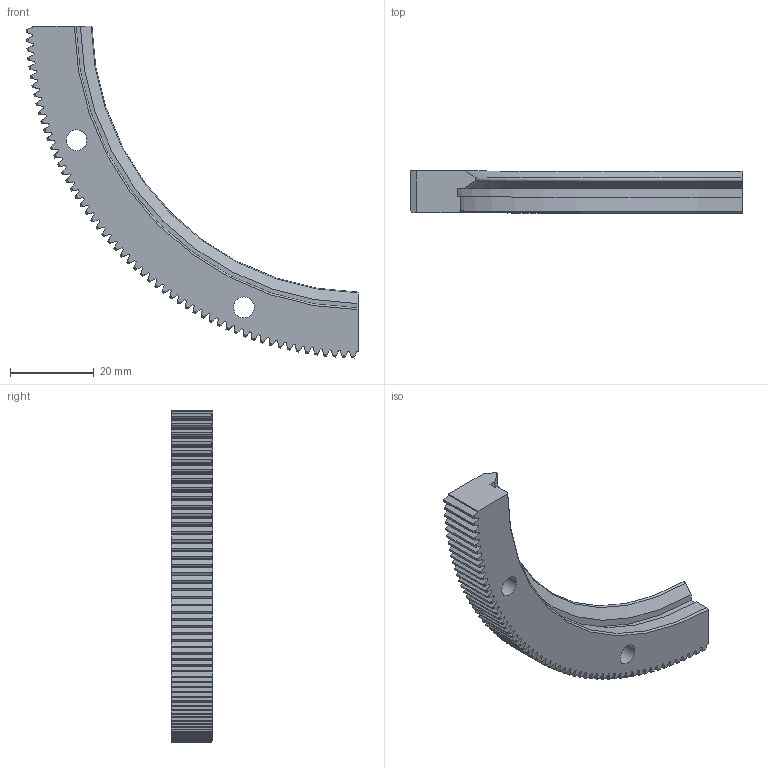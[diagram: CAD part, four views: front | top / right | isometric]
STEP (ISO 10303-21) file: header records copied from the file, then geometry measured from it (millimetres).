
FILE_DESCRIPTION(('STEP AP203'),'1');
FILE_NAME('RIV 161 R90 P.stp','2022-07-19T05:00:48',(' '),(' '),'Spatial InterOp 3D',' ',' ');
FILE_SCHEMA(('CONFIG_CONTROL_DESIGN'));
Length unit declared in the file: millimetre
Products named in the file (1): RIV 161 R90 P
Bounding box: 79.48 x 10 x 79.48 mm (x, y, z)
Volume: 13243 mm3; surface area: 7214 mm2
Topology: 1 solids, 1 shells, 356 faces, 1058 edges, 706 vertices
Faces by surface type: plane 234, cylinder 62, cone 59, torus 1
Full cylindrical faces by diameter (mm): 5 x2, 8 x2
Entity records: 12025 total; most frequent: CARTESIAN_POINT 2483, ORIENTED_EDGE 2104, DIRECTION 1831, EDGE_CURVE 1052, LINE 747, VECTOR 747, VERTEX_POINT 704, AXIS2_PLACEMENT_3D 542
